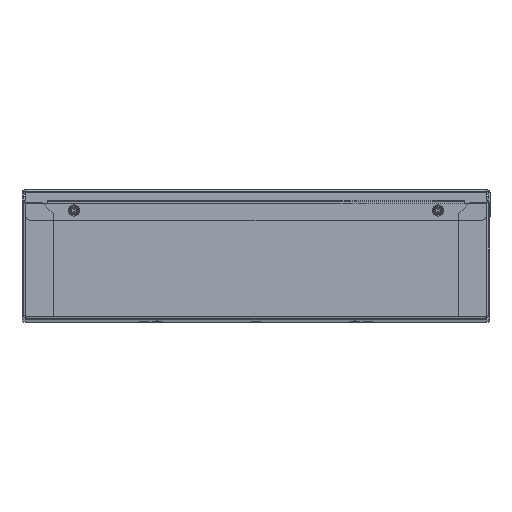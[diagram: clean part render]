
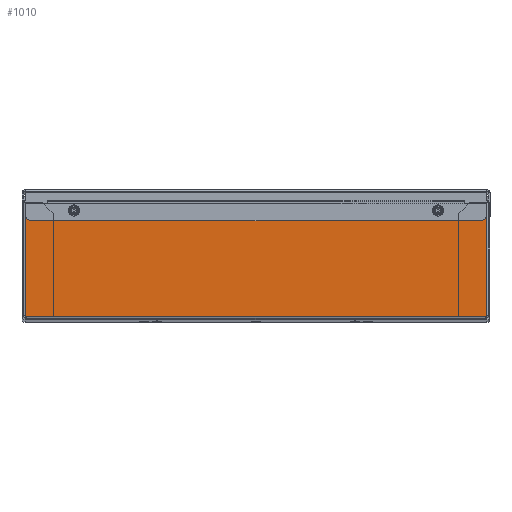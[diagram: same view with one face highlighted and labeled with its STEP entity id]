
A CAD part, top view. The second image highlights one B-rep face of the part: STEP entity #1010.
In plain terms, the highlighted planar face has unit normal (0, 0, 1).
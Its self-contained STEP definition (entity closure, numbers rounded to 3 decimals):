
#1010=ADVANCED_FACE('',(#3163,#3165,#3167),#3169,.F.);
#3163=FACE_BOUND('',#3164,.T.);
#3164=EDGE_LOOP('',(#5304,#5305,#5306,#5307,#5308,#5309));
#3165=FACE_BOUND('',#3166,.T.);
#3166=EDGE_LOOP('',(#5310));
#3167=FACE_BOUND('',#3168,.T.);
#3168=EDGE_LOOP('',(#5311));
#3169=PLANE('',#3170);
#3170=AXIS2_PLACEMENT_3D('',#3171,#3172,#3173);
#3171=CARTESIAN_POINT('',(0.,0.,297.2));
#3172=DIRECTION('',(0.,0.,-1.));
#3173=DIRECTION('',(0.,-1.,0.));
#5304=ORIENTED_EDGE('',*,*,#6396,.F.);
#5305=ORIENTED_EDGE('',*,*,#6397,.F.);
#5306=ORIENTED_EDGE('',*,*,#6398,.T.);
#5307=ORIENTED_EDGE('',*,*,#6399,.F.);
#5308=ORIENTED_EDGE('',*,*,#6400,.T.);
#5309=ORIENTED_EDGE('',*,*,#6401,.T.);
#5310=ORIENTED_EDGE('',*,*,#6342,.F.);
#5311=ORIENTED_EDGE('',*,*,#6344,.F.);
#6342=EDGE_CURVE('',#7023,#7023,#7024,.T.);
#6344=EDGE_CURVE('',#7027,#7027,#7028,.T.);
#6396=EDGE_CURVE('',#7123,#7124,#7125,.T.);
#6397=EDGE_CURVE('',#7126,#7123,#7127,.T.);
#6398=EDGE_CURVE('',#7126,#7128,#7129,.T.);
#6399=EDGE_CURVE('',#7130,#7128,#7131,.T.);
#6400=EDGE_CURVE('',#7130,#7132,#7133,.T.);
#6401=EDGE_CURVE('',#7132,#7124,#7134,.T.);
#7023=VERTEX_POINT('',#8479);
#7024=CIRCLE('',#8480,1.25);
#7027=VERTEX_POINT('',#8489);
#7028=CIRCLE('',#8490,1.25);
#7123=VERTEX_POINT('',#8707);
#7124=VERTEX_POINT('',#8708);
#7125=LINE('',#8709,#8710);
#7126=VERTEX_POINT('',#8712);
#7127=LINE('',#8713,#8714);
#7128=VERTEX_POINT('',#8716);
#7129=LINE('',#8717,#8718);
#7130=VERTEX_POINT('',#8720);
#7131=LINE('',#8721,#8722);
#7132=VERTEX_POINT('',#8724);
#7133=LINE('',#8725,#8726);
#7134=LINE('',#8728,#8729);
#8479=CARTESIAN_POINT('',(71.25,42.,297.2));
#8480=AXIS2_PLACEMENT_3D('',#8481,#8482,#8483);
#8481=CARTESIAN_POINT('',(70.,42.,297.2));
#8482=DIRECTION('',(-0.,0.,1.));
#8483=DIRECTION('',(-1.,0.,0.));
#8489=CARTESIAN_POINT('',(-68.75,42.,297.2));
#8490=AXIS2_PLACEMENT_3D('',#8491,#8492,#8493);
#8491=CARTESIAN_POINT('',(-70.,42.,297.2));
#8492=DIRECTION('',(-0.,0.,1.));
#8493=DIRECTION('',(-1.,0.,0.));
#8707=CARTESIAN_POINT('',(88.711,44.8,297.2));
#8708=CARTESIAN_POINT('',(88.711,1.2,297.2));
#8709=CARTESIAN_POINT('',(88.711,44.8,297.2));
#8710=VECTOR('',#8711,1.);
#8711=DIRECTION('',(0.,-1.,0.));
#8712=CARTESIAN_POINT('',(80.,44.8,297.2));
#8713=CARTESIAN_POINT('',(80.,44.8,297.2));
#8714=VECTOR('',#8715,1.);
#8715=DIRECTION('',(1.,0.,0.));
#8716=CARTESIAN_POINT('',(-80.,44.8,297.2));
#8717=CARTESIAN_POINT('',(80.,44.8,297.2));
#8718=VECTOR('',#8719,1.);
#8719=DIRECTION('',(-1.,0.,0.));
#8720=CARTESIAN_POINT('',(-88.711,44.8,297.2));
#8721=CARTESIAN_POINT('',(-88.711,44.8,297.2));
#8722=VECTOR('',#8723,1.);
#8723=DIRECTION('',(1.,0.,0.));
#8724=CARTESIAN_POINT('',(-88.711,1.2,297.2));
#8725=CARTESIAN_POINT('',(-88.711,44.8,297.2));
#8726=VECTOR('',#8727,1.);
#8727=DIRECTION('',(0.,-1.,0.));
#8728=CARTESIAN_POINT('',(-88.711,1.2,297.2));
#8729=VECTOR('',#8730,1.);
#8730=DIRECTION('',(1.,0.,0.));
